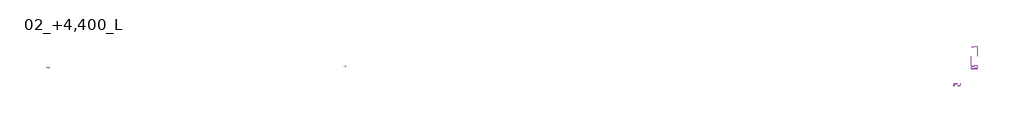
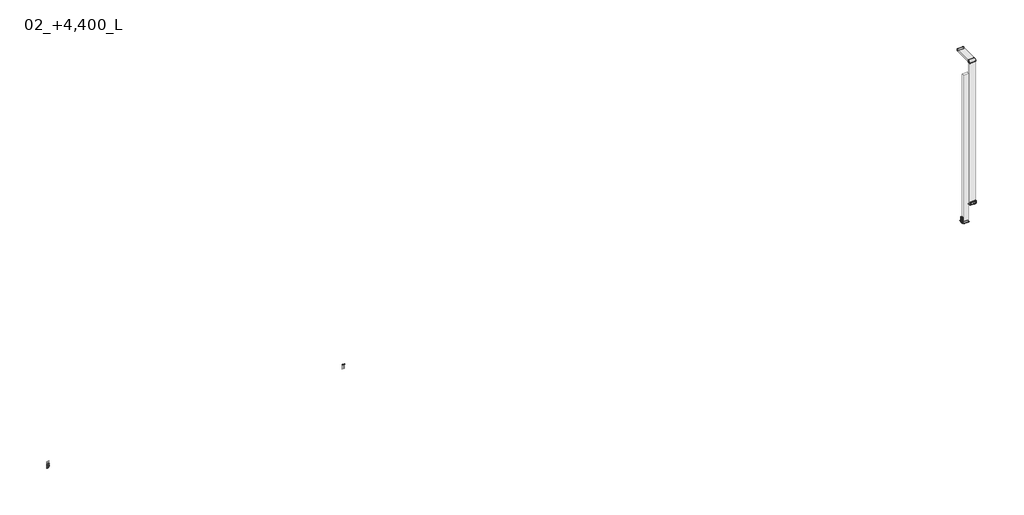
# One storey, incomplete: 29 pipe segments, 20 pipe fittings, 6 duct fittings, 5 duct segments, 5 valves, 2 air terminals.
"""IFC4 building model written with IfcOpenShell, lengths in millimetres."""

from ifc_helpers import new_model, si_unit, point, frame, frame_2d, origin, place, context, project, spatial, polyline, circle_curve, trimmed, segment, composite_curve, outline, extrude, transform, mapped, element, save
from components import air_terminal_900x500_583f1a94, air_terminal_900x500_b4c928ea, duct_fitting_5a3266c1, duct_fitting_1df0ebde, duct_fitting_8b7c782a, duct_fitting_32a36c6a, duct_fitting_f04576ac, pipe_fitting_ed936812, pipe_fitting_77dfce50, pipe_fitting_83c0b86e, valve_9cb9feea

model = new_model("IFC4")

# Units and contexts
model_context = context("Model", 3, world=origin())
ifc_project = project(units=[si_unit("LENGTHUNIT", "METRE", prefix="MILLI")], contexts=[model_context])

# Site, building, storey
site = spatial("IfcSite", under=ifc_project)
building = spatial("IfcBuilding", under=site)
storey = spatial("IfcBuildingStorey", under=building, Name="02_+4,400_L", Elevation=4400.0)

# Air terminals
placement = place(None, origin())
air_terminal_900x500_shape = air_terminal_900x500_583f1a94(model_context)
element("IfcAirTerminal", 1, ObjectType="Клапан ДУ прямоугольный стеновой : 900x500", at=placement, inside=storey, context=model_context, shape_type="MappedRepresentation", body=[
    mapped(air_terminal_900x500_shape, transform((174063.3990224, 116519.3672029, 7150.0), x_axis=(0.0, 1.0, 0.0), y_axis=(-1.0, 0.0, 0.0), z_axis=(0.0, 0.0, 1.0))),
])
air_terminal_900x500_2_shape = air_terminal_900x500_b4c928ea(model_context)
element("IfcAirTerminal", 2, ObjectType="Клапан ОЗК прямоугольный стеновой НЗ : 900x500", at=placement, inside=storey, context=model_context, shape_type="MappedRepresentation", body=[
    mapped(air_terminal_900x500_2_shape, transform((170654.6756135, 113864.9184343, 6850.0), x_axis=(1.0, 0.0, 0.0), y_axis=(0.0, 1.0, 0.0), z_axis=(0.0, 0.0, 1.0))),
])

# Duct fittings
duct_fitting_shape = duct_fitting_5a3266c1(model_context)
element("IfcDuctFitting", 3, ObjectType="ADSK_ВрезкаВоздуховода_Прямоугольная : Стандарт", at=placement, inside=storey, context=model_context, shape_type="MappedRepresentation", body=[
    mapped(duct_fitting_shape, transform((170780.252649, 113864.9184343, 6850.0), x_axis=(-1.0, 0.0, 0.0), y_axis=(0.0, 0.0, 1.0), z_axis=(0.0, 1.0, 0.0))),
])
duct_fitting_2_shape = duct_fitting_1df0ebde(model_context)
element("IfcDuctFitting", 4, ObjectType="ADSK_ВрезкаВоздуховода_Прямоугольная : Стандарт", at=placement, inside=storey, context=model_context, shape_type="MappedRepresentation", body=[
    mapped(duct_fitting_2_shape, transform((174063.3990224, 116639.3672029, 7150.0), x_axis=(0.0, -1.0, 0.0), y_axis=(0.0, 0.0, 1.0), z_axis=(-1.0, 0.0, 0.0))),
])
duct_fitting_3_shape = duct_fitting_8b7c782a(model_context)
element("IfcDuctFitting", 5, ObjectType="ADSK_ЗаглушкаВоздуховода_Прямоугольный : Стандартное", at=placement, inside=storey, context=model_context, shape_type="MappedRepresentation", body=[
    mapped(duct_fitting_3_shape, transform((171230.252649, 113864.9184343, 6310.0), x_axis=(0.0, 0.0, -1.0), y_axis=(-1.0, 0.0, 0.0), z_axis=(0.0, 1.0, 0.0))),
])
duct_fitting_4_shape = duct_fitting_32a36c6a(model_context)
element("IfcDuctFitting", 6, ObjectType="ADSK_ЗаглушкаВоздуховода_Прямоугольный : Стандартное", at=placement, inside=storey, context=model_context, shape_type="MappedRepresentation", body=[
    mapped(duct_fitting_4_shape, transform((174063.3990224, 116814.3672029, 6820.3998984), x_axis=(0.0, 0.0, -1.0), y_axis=(-1.0, 0.0, 0.0), z_axis=(0.0, 1.0, 0.0))),
])
element("IfcDuctFitting", 7, ObjectType="ADSK_ЗаглушкаВоздуховода_Прямоугольный : Стандартное", at=placement, inside=storey, context=model_context, shape_type="MappedRepresentation", body=[
    mapped(duct_fitting_4_shape, transform((174063.3990224, 120254.3672029, 32360.3998984), x_axis=(0.0, 1.0, 0.0), y_axis=(-1.0, 0.0, 0.0), z_axis=(0.0, 0.0, 1.0))),
])
duct_fitting_5_shape = duct_fitting_f04576ac(model_context)
element("IfcDuctFitting", 8, ObjectType="ADSK_ОтводВоздуховодов_Прямоугольный : Стандарт", at=placement, inside=storey, context=model_context, shape_type="MappedRepresentation", body=[
    mapped(duct_fitting_5_shape, transform((174063.3990224, 116814.3672029, 32360.3998984), x_axis=(0.0, -1.0, 0.0), y_axis=(0.0, 0.0, -1.0), z_axis=(1.0, 0.0, 0.0))),
])

# Duct segments
element("IfcDuctSegment", 9, ObjectType="ADSK_Оцинковка_Врезки_ГОСТ 14918-80", at=placement, inside=storey, context=model_context, shape_type="SweptSolid", body=[
    extrude(outline(polyline([(170760.252649, 114039.9184343), (170760.252649, 113689.9184343), (170583.1253243, 113689.9184343), (170583.1253243, 114039.9184343), (170760.252649, 114039.9184343)])), frame((0.0, 0.0, 6400.0), z_axis=(0.0, 0.0, 1.0), x_axis=(1.0, 0.0, 0.0)), (0.0, 0.0, 1.0), 900.0),
])
element("IfcDuctSegment", 10, ObjectType="ADSK_Оцинковка_Тройники_ГОСТ 14918-80", at=placement, inside=storey, context=model_context, shape_type="SweptSolid", body=[
    extrude(outline(polyline([(171680.252649, 113664.9184343), (170780.252649, 113664.9184343), (170780.252649, 114064.9184343), (171680.252649, 114064.9184343), (171680.252649, 113664.9184343)])), frame((0.0, 0.0, 6310.0), z_axis=(0.0, 0.0, 1.0), x_axis=(1.0, 0.0, 0.0)), (0.0, 0.0, 1.0), 26430.3998984),
])
element("IfcDuctSegment", 11, ObjectType="ADSK_Оцинковка_Врезки_ГОСТ 14918-80", at=placement, inside=storey, context=model_context, shape_type="SweptSolid", body=[
    extrude(outline(polyline([(174563.3990224, 117049.3672029), (173563.3990224, 117049.3672029), (173563.3990224, 120254.3672029), (174563.3990224, 120254.3672029), (174563.3990224, 117049.3672029)])), frame((0.0, 0.0, 32185.3998984), z_axis=(0.0, 0.0, 1.0), x_axis=(1.0, 0.0, 0.0)), (0.0, 0.0, 1.0), 350.0),
])
element("IfcDuctSegment", 12, ObjectType="ADSK_Оцинковка_Врезки_ГОСТ 14918-80", at=placement, inside=storey, context=model_context, shape_type="SweptSolid", body=[
    extrude(outline(polyline([(173613.3990224, 116619.3672029), (174513.3990224, 116619.3672029), (174513.3990224, 116447.8169137), (173613.3990224, 116447.8169137), (173613.3990224, 116619.3672029)])), frame((0.0, 0.0, 6950.0), z_axis=(0.0, 0.0, 1.0), x_axis=(1.0, 0.0, 0.0)), (0.0, 0.0, 1.0), 400.0),
])
element("IfcDuctSegment", 13, ObjectType="ADSK_Оцинковка_Врезки_ГОСТ 14918-80", at=placement, inside=storey, context=model_context, shape_type="SweptSolid", body=[
    extrude(outline(polyline([(173563.3990224, 116989.3672029), (174563.3990224, 116989.3672029), (174563.3990224, 116639.3672029), (173563.3990224, 116639.3672029), (173563.3990224, 116989.3672029)])), frame((0.0, 0.0, 6820.3998984), z_axis=(0.0, 0.0, 1.0), x_axis=(1.0, 0.0, 0.0)), (0.0, 0.0, 1.0), 25305.0),
])

# Pipe fittings
pipe_fitting_shape = pipe_fitting_ed936812(model_context)
element("IfcPipeFitting", 14, ObjectType="ADSK_Пресс-фитинг ПЭ_Поворот с фиксатором : Поворот трубы", at=placement, inside=storey, context=model_context, shape_type="MappedRepresentation", body=[
    mapped(pipe_fitting_shape, transform((17845.0, 116769.0000002, 14250.0), x_axis=(0.0, 0.0, -1.0), y_axis=(0.0, 1.0, 0.0), z_axis=(1.0, 0.0, 0.0))),
])
element("IfcPipeFitting", 15, ObjectType="ADSK_Пресс-фитинг ПЭ_Поворот с фиксатором : Поворот трубы", at=placement, inside=storey, context=model_context, shape_type="MappedRepresentation", body=[
    mapped(pipe_fitting_shape, transform((17895.0, 116723.9998477, 14250.0), x_axis=(0.0, 0.0, -1.0), y_axis=(0.0, 1.0, 0.0), z_axis=(1.0, 0.0, 0.0))),
])
element("IfcPipeFitting", 16, ObjectType="ADSK_Пресс-фитинг ПЭ_Поворот с фиксатором : Поворот трубы", at=placement, inside=storey, context=model_context, shape_type="MappedRepresentation", body=[
    mapped(pipe_fitting_shape, transform((17945.0, 116769.0000002, 14250.0), x_axis=(0.0, 0.0, -1.0), y_axis=(0.0, 1.0, 0.0), z_axis=(1.0, 0.0, 0.0))),
])
element("IfcPipeFitting", 17, ObjectType="ADSK_Пресс-фитинг ПЭ_Поворот с фиксатором : Поворот трубы", at=placement, inside=storey, context=model_context, shape_type="MappedRepresentation", body=[
    mapped(pipe_fitting_shape, transform((17995.0, 116723.9998477, 14250.0), x_axis=(0.0, 0.0, -1.0), y_axis=(0.0, 1.0, 0.0), z_axis=(1.0, 0.0, 0.0))),
])
element("IfcPipeFitting", 18, ObjectType="ADSK_Пресс-фитинг ПЭ_Поворот с фиксатором : Поворот трубы", at=placement, inside=storey, context=model_context, shape_type="MappedRepresentation", body=[
    mapped(pipe_fitting_shape, transform((18045.0, 116769.0000002, 14250.0), x_axis=(0.0, 0.0, -1.0), y_axis=(0.0, 1.0, 0.0), z_axis=(1.0, 0.0, 0.0))),
])
element("IfcPipeFitting", 19, ObjectType="ADSK_Пресс-фитинг ПЭ_Поворот с фиксатором : Поворот трубы", at=placement, inside=storey, context=model_context, shape_type="MappedRepresentation", body=[
    mapped(pipe_fitting_shape, transform((18145.0, 116769.0000002, 14250.0), x_axis=(0.0, 0.0, -1.0), y_axis=(0.0, 1.0, 0.0), z_axis=(1.0, 0.0, 0.0))),
])
pipe_fitting_2_shape = pipe_fitting_77dfce50(model_context)
element("IfcPipeFitting", 20, ObjectType="ADSK_Пресс-фитинг ПЭ_Муфта переходная : Пластик черный", at=placement, inside=storey, context=model_context, shape_type="MappedRepresentation", body=[
    mapped(pipe_fitting_2_shape, transform((17995.0, 116724.0000002, 15000.0), x_axis=(0.0, 1.9836511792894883e-07, 0.9999999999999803), y_axis=(1.0, 0.0, 0.0), z_axis=(0.0, 0.9999999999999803, -1.9836511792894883e-07))),
])
element("IfcPipeFitting", 21, ObjectType="ADSK_Пресс-фитинг ПЭ_Муфта переходная : Пластик черный", at=placement, inside=storey, context=model_context, shape_type="MappedRepresentation", body=[
    mapped(pipe_fitting_2_shape, transform((18145.0, 116769.0000002, 14500.0), x_axis=(0.0, 0.0, 1.0), y_axis=(1.0, 0.0, 0.0), z_axis=(0.0, 1.0, 0.0))),
])
element("IfcPipeFitting", 22, ObjectType="ADSK_Пресс-фитинг ПЭ_Муфта переходная : Пластик черный", at=placement, inside=storey, context=model_context, shape_type="MappedRepresentation", body=[
    mapped(pipe_fitting_2_shape, transform((17945.0, 116769.0000002, 14500.0), x_axis=(0.0, 0.0, 1.0), y_axis=(0.0, -1.0, 0.0), z_axis=(1.0, 0.0, 0.0))),
])
element("IfcPipeFitting", 23, ObjectType="ADSK_Пресс-фитинг ПЭ_Муфта переходная : Пластик черный", at=placement, inside=storey, context=model_context, shape_type="MappedRepresentation", body=[
    mapped(pipe_fitting_2_shape, transform((17845.0, 116769.0000002, 14500.0), x_axis=(0.0, 0.0, 1.0), y_axis=(1.0, 0.0, 0.0), z_axis=(0.0, 1.0, 0.0))),
])
element("IfcPipeFitting", 24, ObjectType="ADSK_Пресс-фитинг ПЭ_Муфта переходная : Пластик черный", at=placement, inside=storey, context=model_context, shape_type="MappedRepresentation", body=[
    mapped(pipe_fitting_2_shape, transform((18245.0, 116769.0000002, 14500.0), x_axis=(0.0, 0.0, 1.0), y_axis=(1.0, 0.0, 0.0), z_axis=(0.0, 1.0, 0.0))),
])
element("IfcPipeFitting", 25, ObjectType="ADSK_Пресс-фитинг ПЭ_Муфта переходная : Пластик черный", at=placement, inside=storey, context=model_context, shape_type="MappedRepresentation", body=[
    mapped(pipe_fitting_2_shape, transform((17795.0, 116723.9998477, 15000.0), x_axis=(0.0, 0.0, 1.0), y_axis=(1.0, 0.0, 0.0), z_axis=(0.0, 1.0, 0.0))),
])
element("IfcPipeFitting", 26, ObjectType="ADSK_Пресс-фитинг ПЭ_Муфта переходная : Пластик черный", at=placement, inside=storey, context=model_context, shape_type="MappedRepresentation", body=[
    mapped(pipe_fitting_2_shape, transform((17895.0, 116723.9998477, 15000.0), x_axis=(0.0, 0.0, 1.0), y_axis=(1.0, 0.0, 0.0), z_axis=(0.0, 1.0, 0.0))),
])
element("IfcPipeFitting", 27, ObjectType="ADSK_Пресс-фитинг ПЭ_Муфта переходная : Пластик черный", at=placement, inside=storey, context=model_context, shape_type="MappedRepresentation", body=[
    mapped(pipe_fitting_2_shape, transform((18095.0, 116723.9998477, 15000.0), x_axis=(0.0, 0.0, 1.0), y_axis=(1.0, 0.0, 0.0), z_axis=(0.0, 1.0, 0.0))),
])
element("IfcPipeFitting", 28, ObjectType="ADSK_Пресс-фитинг ПЭ_Муфта переходная : Пластик черный", at=placement, inside=storey, context=model_context, shape_type="MappedRepresentation", body=[
    mapped(pipe_fitting_2_shape, transform((18195.0, 116723.9998477, 15000.0), x_axis=(0.0, 0.0, 1.0), y_axis=(1.0, 0.0, 0.0), z_axis=(0.0, 1.0, 0.0))),
])
element("IfcPipeFitting", 29, ObjectType="ADSK_Пресс-фитинг ПЭ_Муфта переходная : Пластик черный", at=placement, inside=storey, context=model_context, shape_type="MappedRepresentation", body=[
    mapped(pipe_fitting_2_shape, transform((68245.0, 116971.95231, 15083.5484362), x_axis=(0.0, 0.0, 1.0), y_axis=(1.0, 0.0, 0.0), z_axis=(0.0, 1.0, 0.0))),
])
element("IfcPipeFitting", 30, ObjectType="ADSK_Пресс-фитинг ПЭ_Муфта переходная : Пластик черный", at=placement, inside=storey, context=model_context, shape_type="MappedRepresentation", body=[
    mapped(pipe_fitting_2_shape, transform((68145.0, 116971.95231, 15083.5484362), x_axis=(0.0, 0.0, 1.0), y_axis=(1.0, 0.0, 0.0), z_axis=(0.0, 1.0, 0.0))),
])
element("IfcPipeFitting", 31, ObjectType="ADSK_Пресс-фитинг ПЭ_Муфта переходная : Пластик черный", at=placement, inside=storey, context=model_context, shape_type="MappedRepresentation", body=[
    mapped(pipe_fitting_2_shape, transform((67945.0, 116971.95231, 15083.5484362), x_axis=(0.0, 0.0, 1.0), y_axis=(1.0, 0.0, 0.0), z_axis=(0.0, 1.0, 0.0))),
])
element("IfcPipeFitting", 32, ObjectType="ADSK_Пресс-фитинг ПЭ_Муфта переходная : Пластик черный", at=placement, inside=storey, context=model_context, shape_type="MappedRepresentation", body=[
    mapped(pipe_fitting_2_shape, transform((67845.0, 116971.95231, 15083.5484362), x_axis=(0.0, 0.0, 1.0), y_axis=(1.0, 0.0, 0.0), z_axis=(0.0, 1.0, 0.0))),
])
pipe_fitting_3_shape = pipe_fitting_83c0b86e(model_context)
element("IfcPipeFitting", 33, ObjectType="ADSK_Пресс-фитинг ПЭ_Муфта переходная : Пластик черный", at=placement, inside=storey, context=model_context, shape_type="MappedRepresentation", body=[
    mapped(pipe_fitting_3_shape, transform((18045.0, 116769.0000002, 14500.0), x_axis=(0.0, 0.0, 1.0), y_axis=(1.0, 0.0, 0.0), z_axis=(0.0, 1.0, 0.0))),
])

# Pipe segments
element("IfcPipeSegment", 34, ObjectType="ADSK_Сталь водогазопроводная_Неоцинкованная_ГОСТ 3262-75", at=placement, inside=storey, context=model_context, shape_type="SweptSolid", body=[
    extrude(outline(composite_curve([segment(trimmed(circle_curve(frame_2d((17895.0, 116723.9998477)), 10.65), [point((17905.65, 116723.9998477))], [point((17895.0, 116713.3498477))], False, "CARTESIAN"), True, "CONTINUOUS"), segment(trimmed(circle_curve(frame_2d((17895.0, 116723.9998477)), 10.65), [point((17895.0, 116713.3498477))], [point((17884.35, 116723.9998477))], False, "CARTESIAN"), True, "CONTINUOUS"), segment(trimmed(circle_curve(frame_2d((17895.0, 116723.9998477)), 10.65), [point((17884.35, 116723.9998477))], [point((17895.0, 116734.6498477))], False, "CARTESIAN"), True, "CONTINUOUS"), segment(trimmed(circle_curve(frame_2d((17895.0, 116723.9998477)), 10.65), [point((17895.0, 116734.6498477))], [point((17905.65, 116723.9998477))], False, "CARTESIAN"), True, "CONTINUOUS")], self_intersect=False)), frame((0.0, 0.0, 15218.9222879), z_axis=(0.0, 0.0, 1.0), x_axis=(1.0, 0.0, 0.0)), (0.0, 0.0, 1.0), 215.5777121),
])
element("IfcPipeSegment", 35, ObjectType="ADSK_Сталь водогазопроводная_Неоцинкованная_ГОСТ 3262-75", at=placement, inside=storey, context=model_context, shape_type="SweptSolid", body=[
    extrude(outline(composite_curve([segment(trimmed(circle_curve(frame_2d((0.0, -10.65)), 10.65), [point((-10.65, -10.65))], [point((0.0, 0.0))], False, "CARTESIAN"), True, "CONTINUOUS"), segment(trimmed(circle_curve(frame_2d((0.0, -10.65)), 10.65), [point((0.0, 0.0))], [point((10.65, -10.65))], False, "CARTESIAN"), True, "CONTINUOUS"), segment(trimmed(circle_curve(frame_2d((0.0, -10.65)), 10.65), [point((10.65, -10.65))], [point((0.0, -21.3))], False, "CARTESIAN"), True, "CONTINUOUS"), segment(trimmed(circle_curve(frame_2d((0.0, -10.65)), 10.65), [point((0.0, -21.3))], [point((-10.65, -10.65))], False, "CARTESIAN"), True, "CONTINUOUS")], self_intersect=False)), frame((17995.0, 116713.3499005, 15218.9222917), z_axis=(0.0, -2.447810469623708e-07, 0.99999999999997), x_axis=(-1.0, 0.0, 0.0)), (0.0, 0.0, 1.0), 215.5777057),
])
element("IfcPipeSegment", 36, ObjectType="ADSK_Полиэтилен сшитый", at=placement, inside=storey, context=model_context, shape_type="SweptSolid", body=[
    extrude(outline(composite_curve([segment(trimmed(circle_curve(frame_2d((18095.0, 116723.9998477)), 8.0), [point((18087.0, 116723.9998477))], [point((18095.0, 116731.9998477))], False, "CARTESIAN"), True, "CONTINUOUS"), segment(trimmed(circle_curve(frame_2d((18095.0, 116723.9998477)), 8.0), [point((18095.0, 116731.9998477))], [point((18103.0, 116723.9998477))], False, "CARTESIAN"), True, "CONTINUOUS"), segment(trimmed(circle_curve(frame_2d((18095.0, 116723.9998477)), 8.0), [point((18103.0, 116723.9998477))], [point((18095.0, 116715.9998477))], False, "CARTESIAN"), True, "CONTINUOUS"), segment(trimmed(circle_curve(frame_2d((18095.0, 116723.9998477)), 8.0), [point((18095.0, 116715.9998477))], [point((18087.0, 116723.9998477))], False, "CARTESIAN"), True, "CONTINUOUS")], self_intersect=False)), frame((0.0, 0.0, 14298.0), z_axis=(0.0, 0.0, 1.0), x_axis=(1.0, 0.0, 0.0)), (0.0, 0.0, 1.0), 691.0),
])
element("IfcPipeSegment", 37, ObjectType="ADSK_Полиэтилен сшитый", at=placement, inside=storey, context=model_context, shape_type="SweptSolid", body=[
    extrude(outline(composite_curve([segment(trimmed(circle_curve(frame_2d((18195.0, 116723.9998477)), 8.0), [point((18187.0, 116723.9998477))], [point((18195.0, 116731.9998477))], False, "CARTESIAN"), True, "CONTINUOUS"), segment(trimmed(circle_curve(frame_2d((18195.0, 116723.9998477)), 8.0), [point((18195.0, 116731.9998477))], [point((18203.0, 116723.9998477))], False, "CARTESIAN"), True, "CONTINUOUS"), segment(trimmed(circle_curve(frame_2d((18195.0, 116723.9998477)), 8.0), [point((18203.0, 116723.9998477))], [point((18195.0, 116715.9998477))], False, "CARTESIAN"), True, "CONTINUOUS"), segment(trimmed(circle_curve(frame_2d((18195.0, 116723.9998477)), 8.0), [point((18195.0, 116715.9998477))], [point((18187.0, 116723.9998477))], False, "CARTESIAN"), True, "CONTINUOUS")], self_intersect=False)), frame((0.0, 0.0, 14298.0), z_axis=(0.0, 0.0, 1.0), x_axis=(1.0, 0.0, 0.0)), (0.0, 0.0, 1.0), 691.0),
])
element("IfcPipeSegment", 38, ObjectType="ADSK_Полиэтилен сшитый", at=placement, inside=storey, context=model_context, shape_type="SweptSolid", body=[
    extrude(outline(composite_curve([segment(trimmed(circle_curve(frame_2d((18245.0, 116769.0000002)), 8.0), [point((18237.0, 116769.0000002))], [point((18245.0, 116777.0000002))], False, "CARTESIAN"), True, "CONTINUOUS"), segment(trimmed(circle_curve(frame_2d((18245.0, 116769.0000002)), 8.0), [point((18245.0, 116777.0000002))], [point((18253.0, 116769.0000002))], False, "CARTESIAN"), True, "CONTINUOUS"), segment(trimmed(circle_curve(frame_2d((18245.0, 116769.0000002)), 8.0), [point((18253.0, 116769.0000002))], [point((18245.0, 116761.0000002))], False, "CARTESIAN"), True, "CONTINUOUS"), segment(trimmed(circle_curve(frame_2d((18245.0, 116769.0000002)), 8.0), [point((18245.0, 116761.0000002))], [point((18237.0, 116769.0000002))], False, "CARTESIAN"), True, "CONTINUOUS")], self_intersect=False)), frame((0.0, 0.0, 14298.0), z_axis=(0.0, 0.0, 1.0), x_axis=(1.0, 0.0, 0.0)), (0.0, 0.0, 1.0), 191.0),
])
element("IfcPipeSegment", 39, ObjectType="ADSK_Сталь водогазопроводная_Неоцинкованная_ГОСТ 3262-75", at=placement, inside=storey, context=model_context, shape_type="SweptSolid", body=[
    extrude(outline(composite_curve([segment(trimmed(circle_curve(frame_2d((18145.0, 116769.0000002)), 10.65), [point((18134.35, 116769.0000002))], [point((18145.0, 116779.6500002))], False, "CARTESIAN"), True, "CONTINUOUS"), segment(trimmed(circle_curve(frame_2d((18145.0, 116769.0000002)), 10.65), [point((18145.0, 116779.6500002))], [point((18155.65, 116769.0000002))], False, "CARTESIAN"), True, "CONTINUOUS"), segment(trimmed(circle_curve(frame_2d((18145.0, 116769.0000002)), 10.65), [point((18155.65, 116769.0000002))], [point((18145.0, 116758.3500002))], False, "CARTESIAN"), True, "CONTINUOUS"), segment(trimmed(circle_curve(frame_2d((18145.0, 116769.0000002)), 10.65), [point((18145.0, 116758.3500002))], [point((18134.35, 116769.0000002))], False, "CARTESIAN"), True, "CONTINUOUS")], self_intersect=False)), frame((0.0, 0.0, 14511.0), z_axis=(0.0, 0.0, 1.0), x_axis=(1.0, 0.0, 0.0)), (0.0, 0.0, 1.0), 166.0),
])
element("IfcPipeSegment", 40, ObjectType="ADSK_Сталь водогазопроводная_Неоцинкованная_ГОСТ 3262-75", at=placement, inside=storey, context=model_context, shape_type="SweptSolid", body=[
    extrude(outline(composite_curve([segment(trimmed(circle_curve(frame_2d((18045.0, 116769.0000002)), 10.65), [point((18034.35, 116769.0000002))], [point((18045.0, 116779.6500002))], False, "CARTESIAN"), True, "CONTINUOUS"), segment(trimmed(circle_curve(frame_2d((18045.0, 116769.0000002)), 10.65), [point((18045.0, 116779.6500002))], [point((18055.65, 116769.0000002))], False, "CARTESIAN"), True, "CONTINUOUS"), segment(trimmed(circle_curve(frame_2d((18045.0, 116769.0000002)), 10.65), [point((18055.65, 116769.0000002))], [point((18045.0, 116758.3500002))], False, "CARTESIAN"), True, "CONTINUOUS"), segment(trimmed(circle_curve(frame_2d((18045.0, 116769.0000002)), 10.65), [point((18045.0, 116758.3500002))], [point((18034.35, 116769.0000002))], False, "CARTESIAN"), True, "CONTINUOUS")], self_intersect=False)), frame((0.0, 0.0, 14511.0), z_axis=(0.0, 0.0, 1.0), x_axis=(1.0, 0.0, 0.0)), (0.0, 0.0, 1.0), 166.0),
])
element("IfcPipeSegment", 41, ObjectType="ADSK_Сталь водогазопроводная_Неоцинкованная_ГОСТ 3262-75", at=placement, inside=storey, context=model_context, shape_type="SweptSolid", body=[
    extrude(outline(composite_curve([segment(trimmed(circle_curve(frame_2d((17945.0, 116769.0000002)), 10.65), [point((17934.35, 116769.0000002))], [point((17945.0, 116779.6500002))], False, "CARTESIAN"), True, "CONTINUOUS"), segment(trimmed(circle_curve(frame_2d((17945.0, 116769.0000002)), 10.65), [point((17945.0, 116779.6500002))], [point((17955.65, 116769.0000002))], False, "CARTESIAN"), True, "CONTINUOUS"), segment(trimmed(circle_curve(frame_2d((17945.0, 116769.0000002)), 10.65), [point((17955.65, 116769.0000002))], [point((17945.0, 116758.3500002))], False, "CARTESIAN"), True, "CONTINUOUS"), segment(trimmed(circle_curve(frame_2d((17945.0, 116769.0000002)), 10.65), [point((17945.0, 116758.3500002))], [point((17934.35, 116769.0000002))], False, "CARTESIAN"), True, "CONTINUOUS")], self_intersect=False)), frame((0.0, 0.0, 14511.0), z_axis=(0.0, 0.0, 1.0), x_axis=(1.0, 0.0, 0.0)), (0.0, 0.0, 1.0), 166.0),
])
element("IfcPipeSegment", 42, ObjectType="ADSK_Сталь водогазопроводная_Неоцинкованная_ГОСТ 3262-75", at=placement, inside=storey, context=model_context, shape_type="SweptSolid", body=[
    extrude(outline(composite_curve([segment(trimmed(circle_curve(frame_2d((17845.0, 116769.0000002)), 10.65), [point((17834.35, 116769.0000002))], [point((17845.0, 116779.6500002))], False, "CARTESIAN"), True, "CONTINUOUS"), segment(trimmed(circle_curve(frame_2d((17845.0, 116769.0000002)), 10.65), [point((17845.0, 116779.6500002))], [point((17855.65, 116769.0000002))], False, "CARTESIAN"), True, "CONTINUOUS"), segment(trimmed(circle_curve(frame_2d((17845.0, 116769.0000002)), 10.65), [point((17855.65, 116769.0000002))], [point((17845.0, 116758.3500002))], False, "CARTESIAN"), True, "CONTINUOUS"), segment(trimmed(circle_curve(frame_2d((17845.0, 116769.0000002)), 10.65), [point((17845.0, 116758.3500002))], [point((17834.35, 116769.0000002))], False, "CARTESIAN"), True, "CONTINUOUS")], self_intersect=False)), frame((0.0, 0.0, 14511.0), z_axis=(0.0, 0.0, 1.0), x_axis=(1.0, 0.0, 0.0)), (0.0, 0.0, 1.0), 166.0),
])
element("IfcPipeSegment", 43, ObjectType="ADSK_Полиэтилен сшитый", at=placement, inside=storey, context=model_context, shape_type="SweptSolid", body=[
    extrude(outline(composite_curve([segment(trimmed(circle_curve(frame_2d((17795.0, 116723.9998477)), 8.0), [point((17787.0, 116723.9998477))], [point((17795.0, 116731.9998477))], False, "CARTESIAN"), True, "CONTINUOUS"), segment(trimmed(circle_curve(frame_2d((17795.0, 116723.9998477)), 8.0), [point((17795.0, 116731.9998477))], [point((17803.0, 116723.9998477))], False, "CARTESIAN"), True, "CONTINUOUS"), segment(trimmed(circle_curve(frame_2d((17795.0, 116723.9998477)), 8.0), [point((17803.0, 116723.9998477))], [point((17795.0, 116715.9998477))], False, "CARTESIAN"), True, "CONTINUOUS"), segment(trimmed(circle_curve(frame_2d((17795.0, 116723.9998477)), 8.0), [point((17795.0, 116715.9998477))], [point((17787.0, 116723.9998477))], False, "CARTESIAN"), True, "CONTINUOUS")], self_intersect=False)), frame((0.0, 0.0, 14298.0), z_axis=(0.0, 0.0, 1.0), x_axis=(1.0, 0.0, 0.0)), (0.0, 0.0, 1.0), 691.0),
])
element("IfcPipeSegment", 44, ObjectType="ADSK_Сталь водогазопроводная_Неоцинкованная_ГОСТ 3262-75", at=placement, inside=storey, context=model_context, shape_type="SweptSolid", body=[
    extrude(outline(composite_curve([segment(trimmed(circle_curve(frame_2d((18095.0, 116723.9998477)), 10.65), [point((18105.65, 116723.9998477))], [point((18095.0, 116713.3498477))], False, "CARTESIAN"), True, "CONTINUOUS"), segment(trimmed(circle_curve(frame_2d((18095.0, 116723.9998477)), 10.65), [point((18095.0, 116713.3498477))], [point((18084.35, 116723.9998477))], False, "CARTESIAN"), True, "CONTINUOUS"), segment(trimmed(circle_curve(frame_2d((18095.0, 116723.9998477)), 10.65), [point((18084.35, 116723.9998477))], [point((18095.0, 116734.6498477))], False, "CARTESIAN"), True, "CONTINUOUS"), segment(trimmed(circle_curve(frame_2d((18095.0, 116723.9998477)), 10.65), [point((18095.0, 116734.6498477))], [point((18105.65, 116723.9998477))], False, "CARTESIAN"), True, "CONTINUOUS")], self_intersect=False)), frame((0.0, 0.0, 15218.9222879), z_axis=(0.0, 0.0, 1.0), x_axis=(1.0, 0.0, 0.0)), (0.0, 0.0, 1.0), 215.5777121),
])
element("IfcPipeSegment", 45, ObjectType="ADSK_Сталь водогазопроводная_Неоцинкованная_ГОСТ 3262-75", at=placement, inside=storey, context=model_context, shape_type="SweptSolid", body=[
    extrude(outline(composite_curve([segment(trimmed(circle_curve(frame_2d((18195.0, 116723.9998477)), 10.65), [point((18205.65, 116723.9998477))], [point((18195.0, 116713.3498477))], False, "CARTESIAN"), True, "CONTINUOUS"), segment(trimmed(circle_curve(frame_2d((18195.0, 116723.9998477)), 10.65), [point((18195.0, 116713.3498477))], [point((18184.35, 116723.9998477))], False, "CARTESIAN"), True, "CONTINUOUS"), segment(trimmed(circle_curve(frame_2d((18195.0, 116723.9998477)), 10.65), [point((18184.35, 116723.9998477))], [point((18195.0, 116734.6498477))], False, "CARTESIAN"), True, "CONTINUOUS"), segment(trimmed(circle_curve(frame_2d((18195.0, 116723.9998477)), 10.65), [point((18195.0, 116734.6498477))], [point((18205.65, 116723.9998477))], False, "CARTESIAN"), True, "CONTINUOUS")], self_intersect=False)), frame((0.0, 0.0, 15218.9222879), z_axis=(0.0, 0.0, 1.0), x_axis=(1.0, 0.0, 0.0)), (0.0, 0.0, 1.0), 215.5777121),
])
element("IfcPipeSegment", 46, ObjectType="ADSK_Полиэтилен сшитый", at=placement, inside=storey, context=model_context, shape_type="SweptSolid", body=[
    extrude(outline(composite_curve([segment(trimmed(circle_curve(frame_2d((17895.0, 116723.9998477)), 8.0), [point((17887.0, 116723.9998477))], [point((17895.0, 116731.9998477))], False, "CARTESIAN"), True, "CONTINUOUS"), segment(trimmed(circle_curve(frame_2d((17895.0, 116723.9998477)), 8.0), [point((17895.0, 116731.9998477))], [point((17903.0, 116723.9998477))], False, "CARTESIAN"), True, "CONTINUOUS"), segment(trimmed(circle_curve(frame_2d((17895.0, 116723.9998477)), 8.0), [point((17903.0, 116723.9998477))], [point((17895.0, 116715.9998477))], False, "CARTESIAN"), True, "CONTINUOUS"), segment(trimmed(circle_curve(frame_2d((17895.0, 116723.9998477)), 8.0), [point((17895.0, 116715.9998477))], [point((17887.0, 116723.9998477))], False, "CARTESIAN"), True, "CONTINUOUS")], self_intersect=False)), frame((0.0, 0.0, 14298.0), z_axis=(0.0, 0.0, 1.0), x_axis=(1.0, 0.0, 0.0)), (0.0, 0.0, 1.0), 691.0),
])
element("IfcPipeSegment", 47, ObjectType="ADSK_Полиэтилен сшитый", at=placement, inside=storey, context=model_context, shape_type="SweptSolid", body=[
    extrude(outline(composite_curve([segment(trimmed(circle_curve(frame_2d((0.0, 8.0)), 8.0), [point((-8.0, 8.0))], [point((0.0, 16.0))], False, "CARTESIAN"), True, "CONTINUOUS"), segment(trimmed(circle_curve(frame_2d((0.0, 8.0)), 8.0), [point((0.0, 16.0))], [point((8.0, 8.0))], False, "CARTESIAN"), True, "CONTINUOUS"), segment(trimmed(circle_curve(frame_2d((0.0, 8.0)), 8.0), [point((8.0, 8.0))], [point((0.0, 0.0))], False, "CARTESIAN"), True, "CONTINUOUS"), segment(trimmed(circle_curve(frame_2d((0.0, 8.0)), 8.0), [point((0.0, 0.0))], [point((-8.0, 8.0))], False, "CARTESIAN"), True, "CONTINUOUS")], self_intersect=False)), frame((17995.0, 116715.9998477, 14298.0000016), z_axis=(0.0, 1.9836515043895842e-07, 0.9999999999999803), x_axis=(1.0, 0.0, 0.0)), (0.0, 0.0, 1.0), 691.0),
])
element("IfcPipeSegment", 48, ObjectType="ADSK_Полиэтилен сшитый", at=placement, inside=storey, context=model_context, shape_type="SweptSolid", body=[
    extrude(outline(composite_curve([segment(trimmed(circle_curve(frame_2d((17845.0, 116769.0000002)), 8.0), [point((17837.0, 116769.0000002))], [point((17845.0, 116777.0000002))], False, "CARTESIAN"), True, "CONTINUOUS"), segment(trimmed(circle_curve(frame_2d((17845.0, 116769.0000002)), 8.0), [point((17845.0, 116777.0000002))], [point((17853.0, 116769.0000002))], False, "CARTESIAN"), True, "CONTINUOUS"), segment(trimmed(circle_curve(frame_2d((17845.0, 116769.0000002)), 8.0), [point((17853.0, 116769.0000002))], [point((17845.0, 116761.0000002))], False, "CARTESIAN"), True, "CONTINUOUS"), segment(trimmed(circle_curve(frame_2d((17845.0, 116769.0000002)), 8.0), [point((17845.0, 116761.0000002))], [point((17837.0, 116769.0000002))], False, "CARTESIAN"), True, "CONTINUOUS")], self_intersect=False)), frame((0.0, 0.0, 14298.0), z_axis=(0.0, 0.0, 1.0), x_axis=(1.0, 0.0, 0.0)), (0.0, 0.0, 1.0), 191.0),
])
element("IfcPipeSegment", 49, ObjectType="ADSK_Полиэтилен сшитый", at=placement, inside=storey, context=model_context, shape_type="SweptSolid", body=[
    extrude(outline(composite_curve([segment(trimmed(circle_curve(frame_2d((17945.0, 116769.0000002)), 8.0), [point((17937.0, 116769.0000002))], [point((17945.0, 116777.0000002))], False, "CARTESIAN"), True, "CONTINUOUS"), segment(trimmed(circle_curve(frame_2d((17945.0, 116769.0000002)), 8.0), [point((17945.0, 116777.0000002))], [point((17953.0, 116769.0000002))], False, "CARTESIAN"), True, "CONTINUOUS"), segment(trimmed(circle_curve(frame_2d((17945.0, 116769.0000002)), 8.0), [point((17953.0, 116769.0000002))], [point((17945.0, 116761.0000002))], False, "CARTESIAN"), True, "CONTINUOUS"), segment(trimmed(circle_curve(frame_2d((17945.0, 116769.0000002)), 8.0), [point((17945.0, 116761.0000002))], [point((17937.0, 116769.0000002))], False, "CARTESIAN"), True, "CONTINUOUS")], self_intersect=False)), frame((0.0, 0.0, 14298.0), z_axis=(0.0, 0.0, 1.0), x_axis=(1.0, 0.0, 0.0)), (0.0, 0.0, 1.0), 191.0),
])
element("IfcPipeSegment", 50, ObjectType="ADSK_Полиэтилен сшитый", at=placement, inside=storey, context=model_context, shape_type="SweptSolid", body=[
    extrude(outline(composite_curve([segment(trimmed(circle_curve(frame_2d((18045.0, 116769.0000002)), 8.0), [point((18037.0, 116769.0000002))], [point((18045.0, 116777.0000002))], False, "CARTESIAN"), True, "CONTINUOUS"), segment(trimmed(circle_curve(frame_2d((18045.0, 116769.0000002)), 8.0), [point((18045.0, 116777.0000002))], [point((18053.0, 116769.0000002))], False, "CARTESIAN"), True, "CONTINUOUS"), segment(trimmed(circle_curve(frame_2d((18045.0, 116769.0000002)), 8.0), [point((18053.0, 116769.0000002))], [point((18045.0, 116761.0000002))], False, "CARTESIAN"), True, "CONTINUOUS"), segment(trimmed(circle_curve(frame_2d((18045.0, 116769.0000002)), 8.0), [point((18045.0, 116761.0000002))], [point((18037.0, 116769.0000002))], False, "CARTESIAN"), True, "CONTINUOUS")], self_intersect=False)), frame((0.0, 0.0, 14298.0), z_axis=(0.0, 0.0, 1.0), x_axis=(1.0, 0.0, 0.0)), (0.0, 0.0, 1.0), 191.0),
])
element("IfcPipeSegment", 51, ObjectType="ADSK_Полиэтилен сшитый", at=placement, inside=storey, context=model_context, shape_type="SweptSolid", body=[
    extrude(outline(composite_curve([segment(trimmed(circle_curve(frame_2d((18145.0, 116769.0000002)), 8.0), [point((18137.0, 116769.0000002))], [point((18145.0, 116777.0000002))], False, "CARTESIAN"), True, "CONTINUOUS"), segment(trimmed(circle_curve(frame_2d((18145.0, 116769.0000002)), 8.0), [point((18145.0, 116777.0000002))], [point((18153.0, 116769.0000002))], False, "CARTESIAN"), True, "CONTINUOUS"), segment(trimmed(circle_curve(frame_2d((18145.0, 116769.0000002)), 8.0), [point((18153.0, 116769.0000002))], [point((18145.0, 116761.0000002))], False, "CARTESIAN"), True, "CONTINUOUS"), segment(trimmed(circle_curve(frame_2d((18145.0, 116769.0000002)), 8.0), [point((18145.0, 116761.0000002))], [point((18137.0, 116769.0000002))], False, "CARTESIAN"), True, "CONTINUOUS")], self_intersect=False)), frame((0.0, 0.0, 14298.0), z_axis=(0.0, 0.0, 1.0), x_axis=(1.0, 0.0, 0.0)), (0.0, 0.0, 1.0), 191.0),
])
element("IfcPipeSegment", 52, ObjectType="ADSK_Сталь водогазопроводная_Неоцинкованная_ГОСТ 3262-75", at=placement, inside=storey, context=model_context, shape_type="SweptSolid", body=[
    extrude(outline(composite_curve([segment(trimmed(circle_curve(frame_2d((18245.0, 116769.0000002)), 10.65), [point((18255.65, 116769.0000002))], [point((18245.0, 116758.3500002))], False, "CARTESIAN"), True, "CONTINUOUS"), segment(trimmed(circle_curve(frame_2d((18245.0, 116769.0000002)), 10.65), [point((18245.0, 116758.3500002))], [point((18234.35, 116769.0000002))], False, "CARTESIAN"), True, "CONTINUOUS"), segment(trimmed(circle_curve(frame_2d((18245.0, 116769.0000002)), 10.65), [point((18234.35, 116769.0000002))], [point((18245.0, 116779.6500002))], False, "CARTESIAN"), True, "CONTINUOUS"), segment(trimmed(circle_curve(frame_2d((18245.0, 116769.0000002)), 10.65), [point((18245.0, 116779.6500002))], [point((18255.65, 116769.0000002))], False, "CARTESIAN"), True, "CONTINUOUS")], self_intersect=False)), frame((0.0, 0.0, 14511.0), z_axis=(0.0, 0.0, 1.0), x_axis=(1.0, 0.0, 0.0)), (0.0, 0.0, 1.0), 166.0),
])
element("IfcPipeSegment", 53, ObjectType="ADSK_Сталь водогазопроводная_Неоцинкованная_ГОСТ 3262-75", at=placement, inside=storey, context=model_context, shape_type="SweptSolid", body=[
    extrude(outline(composite_curve([segment(trimmed(circle_curve(frame_2d((17795.0, 116723.9998477)), 10.65), [point((17805.65, 116723.9998477))], [point((17795.0, 116713.3498477))], False, "CARTESIAN"), True, "CONTINUOUS"), segment(trimmed(circle_curve(frame_2d((17795.0, 116723.9998477)), 10.65), [point((17795.0, 116713.3498477))], [point((17784.35, 116723.9998477))], False, "CARTESIAN"), True, "CONTINUOUS"), segment(trimmed(circle_curve(frame_2d((17795.0, 116723.9998477)), 10.65), [point((17784.35, 116723.9998477))], [point((17795.0, 116734.6498477))], False, "CARTESIAN"), True, "CONTINUOUS"), segment(trimmed(circle_curve(frame_2d((17795.0, 116723.9998477)), 10.65), [point((17795.0, 116734.6498477))], [point((17805.65, 116723.9998477))], False, "CARTESIAN"), True, "CONTINUOUS")], self_intersect=False)), frame((0.0, 0.0, 15218.9222879), z_axis=(0.0, 0.0, 1.0), x_axis=(1.0, 0.0, 0.0)), (0.0, 0.0, 1.0), 215.5777121),
])
element("IfcPipeSegment", 54, ObjectType="ADSK_Полиэтилен сшитый", at=placement, inside=storey, context=model_context, shape_type="SweptSolid", body=[
    extrude(outline(composite_curve([segment(trimmed(circle_curve(frame_2d((67845.0, 116971.95231)), 8.0), [point((67853.0, 116971.95231))], [point((67845.0, 116963.95231))], False, "CARTESIAN"), True, "CONTINUOUS"), segment(trimmed(circle_curve(frame_2d((67845.0, 116971.95231)), 8.0), [point((67845.0, 116963.95231))], [point((67837.0, 116971.95231))], False, "CARTESIAN"), True, "CONTINUOUS"), segment(trimmed(circle_curve(frame_2d((67845.0, 116971.95231)), 8.0), [point((67837.0, 116971.95231))], [point((67845.0, 116979.95231))], False, "CARTESIAN"), True, "CONTINUOUS"), segment(trimmed(circle_curve(frame_2d((67845.0, 116971.95231)), 8.0), [point((67845.0, 116979.95231))], [point((67853.0, 116971.95231))], False, "CARTESIAN"), True, "CONTINUOUS")], self_intersect=False)), frame((0.0, 0.0, 14298.0), z_axis=(0.0, 0.0, 1.0), x_axis=(1.0, 0.0, 0.0)), (0.0, 0.0, 1.0), 774.5484362),
])
element("IfcPipeSegment", 55, ObjectType="ADSK_Полиэтилен сшитый", at=placement, inside=storey, context=model_context, shape_type="SweptSolid", body=[
    extrude(outline(composite_curve([segment(trimmed(circle_curve(frame_2d((67945.0, 116971.95231)), 8.0), [point((67953.0, 116971.95231))], [point((67945.0, 116963.95231))], False, "CARTESIAN"), True, "CONTINUOUS"), segment(trimmed(circle_curve(frame_2d((67945.0, 116971.95231)), 8.0), [point((67945.0, 116963.95231))], [point((67937.0, 116971.95231))], False, "CARTESIAN"), True, "CONTINUOUS"), segment(trimmed(circle_curve(frame_2d((67945.0, 116971.95231)), 8.0), [point((67937.0, 116971.95231))], [point((67945.0, 116979.95231))], False, "CARTESIAN"), True, "CONTINUOUS"), segment(trimmed(circle_curve(frame_2d((67945.0, 116971.95231)), 8.0), [point((67945.0, 116979.95231))], [point((67953.0, 116971.95231))], False, "CARTESIAN"), True, "CONTINUOUS")], self_intersect=False)), frame((0.0, 0.0, 14298.0), z_axis=(0.0, 0.0, 1.0), x_axis=(1.0, 0.0, 0.0)), (0.0, 0.0, 1.0), 774.5484362),
])
element("IfcPipeSegment", 56, ObjectType="ADSK_Полиэтилен сшитый", at=placement, inside=storey, context=model_context, shape_type="SweptSolid", body=[
    extrude(outline(composite_curve([segment(trimmed(circle_curve(frame_2d((68145.0, 116971.95231)), 8.0), [point((68137.0, 116971.95231))], [point((68145.0, 116979.95231))], False, "CARTESIAN"), True, "CONTINUOUS"), segment(trimmed(circle_curve(frame_2d((68145.0, 116971.95231)), 8.0), [point((68145.0, 116979.95231))], [point((68153.0, 116971.95231))], False, "CARTESIAN"), True, "CONTINUOUS"), segment(trimmed(circle_curve(frame_2d((68145.0, 116971.95231)), 8.0), [point((68153.0, 116971.95231))], [point((68145.0, 116963.95231))], False, "CARTESIAN"), True, "CONTINUOUS"), segment(trimmed(circle_curve(frame_2d((68145.0, 116971.95231)), 8.0), [point((68145.0, 116963.95231))], [point((68137.0, 116971.95231))], False, "CARTESIAN"), True, "CONTINUOUS")], self_intersect=False)), frame((0.0, 0.0, 14298.0), z_axis=(0.0, 0.0, 1.0), x_axis=(1.0, 0.0, 0.0)), (0.0, 0.0, 1.0), 774.5484362),
])
element("IfcPipeSegment", 57, ObjectType="ADSK_Полиэтилен сшитый", at=placement, inside=storey, context=model_context, shape_type="SweptSolid", body=[
    extrude(outline(composite_curve([segment(trimmed(circle_curve(frame_2d((68245.0, 116971.95231)), 8.0), [point((68237.0, 116971.95231))], [point((68245.0, 116979.95231))], False, "CARTESIAN"), True, "CONTINUOUS"), segment(trimmed(circle_curve(frame_2d((68245.0, 116971.95231)), 8.0), [point((68245.0, 116979.95231))], [point((68253.0, 116971.95231))], False, "CARTESIAN"), True, "CONTINUOUS"), segment(trimmed(circle_curve(frame_2d((68245.0, 116971.95231)), 8.0), [point((68253.0, 116971.95231))], [point((68245.0, 116963.95231))], False, "CARTESIAN"), True, "CONTINUOUS"), segment(trimmed(circle_curve(frame_2d((68245.0, 116971.95231)), 8.0), [point((68245.0, 116963.95231))], [point((68237.0, 116971.95231))], False, "CARTESIAN"), True, "CONTINUOUS")], self_intersect=False)), frame((0.0, 0.0, 14298.0), z_axis=(0.0, 0.0, 1.0), x_axis=(1.0, 0.0, 0.0)), (0.0, 0.0, 1.0), 774.5484362),
])
element("IfcPipeSegment", 58, ObjectType="ADSK_Сталь водогазопроводная_Неоцинкованная_ГОСТ 3262-75", at=placement, inside=storey, context=model_context, shape_type="SweptSolid", body=[
    extrude(outline(composite_curve([segment(trimmed(circle_curve(frame_2d((0.0, 10.65)), 10.65), [point((-10.65, 10.65))], [point((0.0, 21.3))], False, "CARTESIAN"), True, "CONTINUOUS"), segment(trimmed(circle_curve(frame_2d((0.0, 10.65)), 10.65), [point((0.0, 21.3))], [point((10.65, 10.65))], False, "CARTESIAN"), True, "CONTINUOUS"), segment(trimmed(circle_curve(frame_2d((0.0, 10.65)), 10.65), [point((10.65, 10.65))], [point((0.0, 0.0))], False, "CARTESIAN"), True, "CONTINUOUS"), segment(trimmed(circle_curve(frame_2d((0.0, 10.65)), 10.65), [point((0.0, 0.0))], [point((-10.65, 10.65))], False, "CARTESIAN"), True, "CONTINUOUS")], self_intersect=False)), frame((17995.0, 116713.3500525, 15010.999992), z_axis=(0.0, -7.526669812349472e-07, 0.9999999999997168), x_axis=(1.0, 0.0, 0.0)), (0.0, 0.0, 1.0), 167.9222943),
])
element("IfcPipeSegment", 59, ObjectType="ADSK_Сталь водогазопроводная_Неоцинкованная_ГОСТ 3262-75", at=placement, inside=storey, context=model_context, shape_type="SweptSolid", body=[
    extrude(outline(composite_curve([segment(trimmed(circle_curve(frame_2d((17795.0, 116723.9998477)), 10.65), [point((17784.35, 116723.9998477))], [point((17795.0, 116734.6498477))], False, "CARTESIAN"), True, "CONTINUOUS"), segment(trimmed(circle_curve(frame_2d((17795.0, 116723.9998477)), 10.65), [point((17795.0, 116734.6498477))], [point((17805.65, 116723.9998477))], False, "CARTESIAN"), True, "CONTINUOUS"), segment(trimmed(circle_curve(frame_2d((17795.0, 116723.9998477)), 10.65), [point((17805.65, 116723.9998477))], [point((17795.0, 116713.3498477))], False, "CARTESIAN"), True, "CONTINUOUS"), segment(trimmed(circle_curve(frame_2d((17795.0, 116723.9998477)), 10.65), [point((17795.0, 116713.3498477))], [point((17784.35, 116723.9998477))], False, "CARTESIAN"), True, "CONTINUOUS")], self_intersect=False)), frame((0.0, 0.0, 15011.0), z_axis=(0.0, 0.0, 1.0), x_axis=(1.0, 0.0, 0.0)), (0.0, 0.0, 1.0), 167.9222879),
])
element("IfcPipeSegment", 60, ObjectType="ADSK_Сталь водогазопроводная_Неоцинкованная_ГОСТ 3262-75", at=placement, inside=storey, context=model_context, shape_type="SweptSolid", body=[
    extrude(outline(composite_curve([segment(trimmed(circle_curve(frame_2d((17895.0, 116723.9998477)), 10.65), [point((17884.35, 116723.9998477))], [point((17895.0, 116734.6498477))], False, "CARTESIAN"), True, "CONTINUOUS"), segment(trimmed(circle_curve(frame_2d((17895.0, 116723.9998477)), 10.65), [point((17895.0, 116734.6498477))], [point((17905.65, 116723.9998477))], False, "CARTESIAN"), True, "CONTINUOUS"), segment(trimmed(circle_curve(frame_2d((17895.0, 116723.9998477)), 10.65), [point((17905.65, 116723.9998477))], [point((17895.0, 116713.3498477))], False, "CARTESIAN"), True, "CONTINUOUS"), segment(trimmed(circle_curve(frame_2d((17895.0, 116723.9998477)), 10.65), [point((17895.0, 116713.3498477))], [point((17884.35, 116723.9998477))], False, "CARTESIAN"), True, "CONTINUOUS")], self_intersect=False)), frame((0.0, 0.0, 15011.0), z_axis=(0.0, 0.0, 1.0), x_axis=(1.0, 0.0, 0.0)), (0.0, 0.0, 1.0), 167.9222879),
])
element("IfcPipeSegment", 61, ObjectType="ADSK_Сталь водогазопроводная_Неоцинкованная_ГОСТ 3262-75", at=placement, inside=storey, context=model_context, shape_type="SweptSolid", body=[
    extrude(outline(composite_curve([segment(trimmed(circle_curve(frame_2d((18095.0, 116723.9998477)), 10.65), [point((18084.35, 116723.9998477))], [point((18095.0, 116734.6498477))], False, "CARTESIAN"), True, "CONTINUOUS"), segment(trimmed(circle_curve(frame_2d((18095.0, 116723.9998477)), 10.65), [point((18095.0, 116734.6498477))], [point((18105.65, 116723.9998477))], False, "CARTESIAN"), True, "CONTINUOUS"), segment(trimmed(circle_curve(frame_2d((18095.0, 116723.9998477)), 10.65), [point((18105.65, 116723.9998477))], [point((18095.0, 116713.3498477))], False, "CARTESIAN"), True, "CONTINUOUS"), segment(trimmed(circle_curve(frame_2d((18095.0, 116723.9998477)), 10.65), [point((18095.0, 116713.3498477))], [point((18084.35, 116723.9998477))], False, "CARTESIAN"), True, "CONTINUOUS")], self_intersect=False)), frame((0.0, 0.0, 15011.0), z_axis=(0.0, 0.0, 1.0), x_axis=(1.0, 0.0, 0.0)), (0.0, 0.0, 1.0), 167.9222879),
])
element("IfcPipeSegment", 62, ObjectType="ADSK_Сталь водогазопроводная_Неоцинкованная_ГОСТ 3262-75", at=placement, inside=storey, context=model_context, shape_type="SweptSolid", body=[
    extrude(outline(composite_curve([segment(trimmed(circle_curve(frame_2d((18195.0, 116723.9998477)), 10.65), [point((18184.35, 116723.9998477))], [point((18195.0, 116734.6498477))], False, "CARTESIAN"), True, "CONTINUOUS"), segment(trimmed(circle_curve(frame_2d((18195.0, 116723.9998477)), 10.65), [point((18195.0, 116734.6498477))], [point((18205.65, 116723.9998477))], False, "CARTESIAN"), True, "CONTINUOUS"), segment(trimmed(circle_curve(frame_2d((18195.0, 116723.9998477)), 10.65), [point((18205.65, 116723.9998477))], [point((18195.0, 116713.3498477))], False, "CARTESIAN"), True, "CONTINUOUS"), segment(trimmed(circle_curve(frame_2d((18195.0, 116723.9998477)), 10.65), [point((18195.0, 116713.3498477))], [point((18184.35, 116723.9998477))], False, "CARTESIAN"), True, "CONTINUOUS")], self_intersect=False)), frame((0.0, 0.0, 15011.0), z_axis=(0.0, 0.0, 1.0), x_axis=(1.0, 0.0, 0.0)), (0.0, 0.0, 1.0), 167.9222879),
])

# Valves
valve_shape = valve_9cb9feea(model_context)
element("IfcValve", 63, ObjectType="HCP_Построения_BVR-F : BVR-F", at=placement, inside=storey, context=model_context, shape_type="MappedRepresentation", body=[
    mapped(valve_shape, transform((18245.0, 116769.0000002, 14717.0), x_axis=(0.0, 0.0, -1.0), y_axis=(0.0, 1.0, 0.0), z_axis=(1.0, 0.0, 0.0))),
])
element("IfcValve", 64, ObjectType="HCP_Построения_BVR-F : BVR-F", at=placement, inside=storey, context=model_context, shape_type="MappedRepresentation", body=[
    mapped(valve_shape, transform((18145.0, 116769.0000002, 14717.0), x_axis=(0.0, 0.0, -1.0), y_axis=(0.0, 1.0, 0.0), z_axis=(1.0, 0.0, 0.0))),
])
element("IfcValve", 65, ObjectType="HCP_Построения_BVR-F : BVR-F", at=placement, inside=storey, context=model_context, shape_type="MappedRepresentation", body=[
    mapped(valve_shape, transform((18045.0, 116769.0000002, 14717.0), x_axis=(0.0, 0.0, -1.0), y_axis=(0.0, 1.0, 0.0), z_axis=(1.0, 0.0, 0.0))),
])
element("IfcValve", 66, ObjectType="HCP_Построения_BVR-F : BVR-F", at=placement, inside=storey, context=model_context, shape_type="MappedRepresentation", body=[
    mapped(valve_shape, transform((17945.0, 116769.0000002, 14717.0), x_axis=(0.0, 0.0, -1.0), y_axis=(0.0, 1.0, 0.0), z_axis=(1.0, 0.0, 0.0))),
])
element("IfcValve", 67, ObjectType="HCP_Построения_BVR-F : BVR-F", at=placement, inside=storey, context=model_context, shape_type="MappedRepresentation", body=[
    mapped(valve_shape, transform((17845.0, 116769.0000002, 14717.0), x_axis=(0.0, 0.0, -1.0), y_axis=(0.0, 1.0, 0.0), z_axis=(1.0, 0.0, 0.0))),
])

save(model, "model.ifc")
